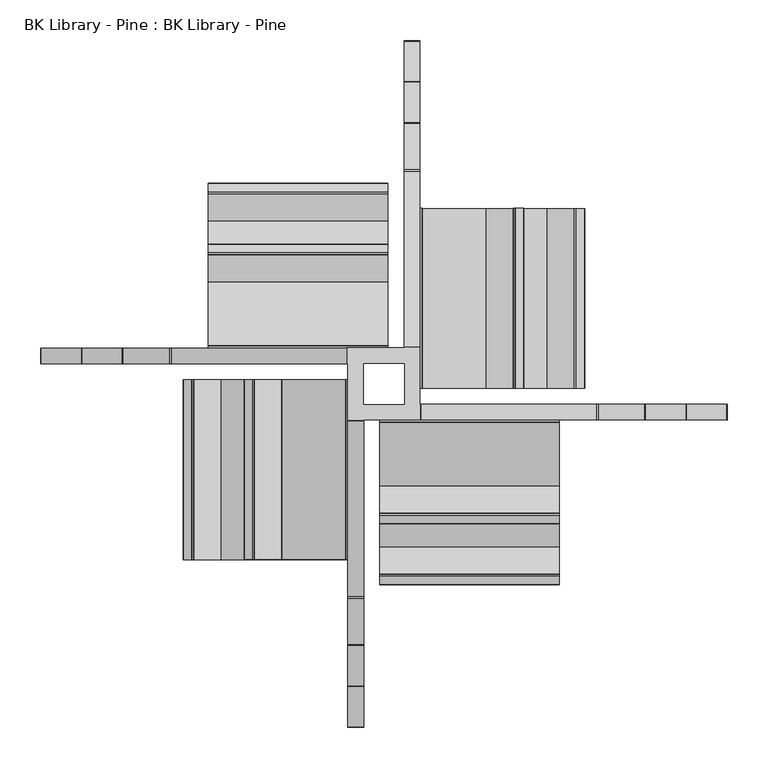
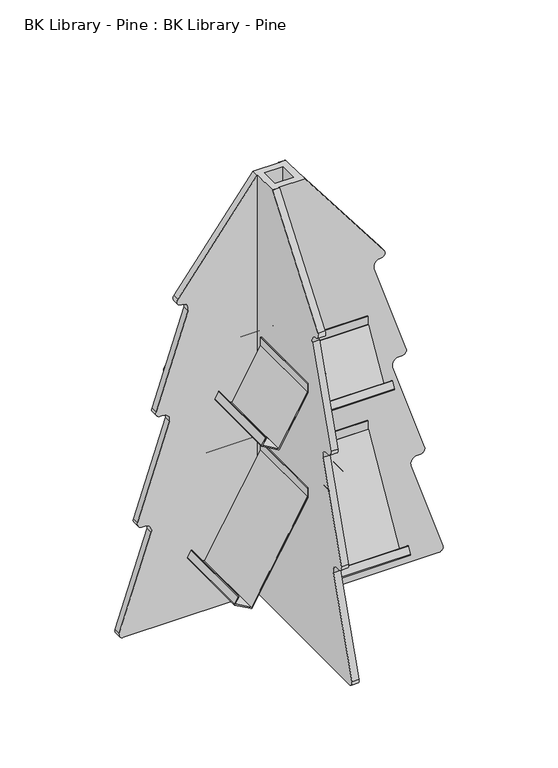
"""IFC4 building model written with IfcOpenShell, lengths in millimetres: furniture geometry, BK Library - Pine : BK Library - Pine."""

from ifc_helpers import new_model, si_unit, point, frame, frame_2d, origin, place, context, project, spatial, polyline, circle_curve, trimmed, segment, composite_curve, outline, extrude, source, transform, mapped, element, save
from ifc_brep_helpers import plane_surface, cylinder_surface, revolved_surface, advanced_brep


def bk_library_pine_bk_library_pine_50db73bd(model_context):
    return source(origin(), model_context, "Body", "SolidModel", [
        advanced_brep(
        [(-25.0, -319.7350889, 666.0154092), (-25.0, -308.3508893, 650.220676), (-25.0, -299.9736659, 650.220676), (-25.0, -282.8973665, 626.5285762), (-25.0, -369.7350889, 366.0154092), (-25.0, -358.3508893, 350.220676), (-25.0, -349.9894957, 350.220676), (-25.0, -332.9166209, 326.518313), (-25.0, -419.7222527, 66.6222513), (-25.0, -408.3403361, 50.820676), (-25.0, 23.0, 50.820676), (-25.0, 25.0, 52.820676), (-25.0, 25.0, 1249.620676), (-25.0, -25.0, 1249.620676), (-25.0, -25.0, 52.820676), (-25.0, -44.0, 52.820676), (-25.0, -44.0, 1249.620676), (-25.0, -44.7683609, 1249.620676), (-25.0, -45.4702203, 1249.2745338), (-25.0, -260.1055371, 969.5253041), (-25.0, -250.3395735, 950.2231852), (-25.0, -232.8952761, 926.5348475), (-44.0, -319.7350889, 666.0154092), (-44.0, -232.8952761, 926.5348475), (-44.0, -250.3395735, 950.2231852), (-44.0, -260.1055371, 969.5253041), (-44.0, -45.4702203, 1249.2745338), (-44.0, -44.7683609, 1249.620676), (-44.0, 25.0, 1249.620676), (-44.0, 25.0, 52.820676), (-44.0, 23.0, 50.820676), (-44.0, -408.3403361, 50.820676), (-44.0, -419.7222527, 66.6222513), (-44.0, -332.9166209, 326.518313), (-44.0, -349.9894957, 350.220676), (-44.0, -358.3508893, 350.220676), (-44.0, -369.7350889, 366.0154092), (-44.0, -282.8973665, 626.5285762), (-44.0, -299.9736659, 650.220676), (-44.0, -308.3508893, 650.220676), (44.7683609, -44.0, 1249.620676), (44.7683609, -25.0, 1249.620676), (44.0, -25.0, 1249.620676), (44.0, 44.7683609, 1249.620676), (25.0, 44.7683609, 1249.620676), (25.0, 44.0, 1249.620676), (-44.7683609, 44.0, 1249.620676), (-44.7683609, 25.0, 1249.620676), (25.0, 25.0, 1249.620676), (25.0, -25.0, 1249.620676), (-319.7350889, 25.0, 666.0154092), (-308.3508893, 25.0, 650.220676), (-299.9736659, 25.0, 650.220676), (-282.8973665, 25.0, 626.5285762), (-369.7350889, 25.0, 366.0154092), (-358.3508893, 25.0, 350.220676), (-349.9894957, 25.0, 350.220676), (-332.9166209, 25.0, 326.518313), (-419.7222527, 25.0, 66.6222513), (-408.3403361, 25.0, 50.820676), (23.0, 25.0, 50.820676), (25.0, 25.0, 52.820676), (-45.4702203, 25.0, 1249.2745338), (-260.1055371, 25.0, 969.5253041), (-250.3395735, 25.0, 950.2231852), (-232.8952761, 25.0, 926.5348475), (-319.7350889, 44.0, 666.0154092), (-232.8952761, 44.0, 926.5348475), (-250.3395735, 44.0, 950.2231852), (-260.1055371, 44.0, 969.5253041), (-45.4702203, 44.0, 1249.2745338), (25.0, 44.0, 52.820676), (23.0, 44.0, 50.820676), (-408.3403361, 44.0, 50.820676), (-419.7222527, 44.0, 66.6222513), (-332.9166209, 44.0, 326.518313), (-349.9894957, 44.0, 350.220676), (-358.3508893, 44.0, 350.220676), (-369.7350889, 44.0, 366.0154092), (-282.8973665, 44.0, 626.5285762), (-299.9736659, 44.0, 650.220676), (-308.3508893, 44.0, 650.220676), (25.0, 319.7350889, 666.0154092), (25.0, 308.3508893, 650.220676), (25.0, 299.9736659, 650.220676), (25.0, 282.8973665, 626.5285762), (25.0, 369.7350889, 366.0154092), (25.0, 358.3508893, 350.220676), (25.0, 349.9894957, 350.220676), (25.0, 332.9166209, 326.518313), (25.0, 419.7222527, 66.6222513), (25.0, 408.3403361, 50.820676), (25.0, -23.0, 50.820676), (25.0, -25.0, 52.820676), (25.0, 45.4702203, 1249.2745338), (25.0, 260.1055371, 969.5253041), (25.0, 250.3395735, 950.2231852), (25.0, 232.8952761, 926.5348475), (44.0, 319.7350889, 666.0154092), (44.0, 232.8952761, 926.5348475), (44.0, 250.3395735, 950.2231852), (44.0, 260.1055371, 969.5253041), (44.0, 45.4702203, 1249.2745338), (44.0, -25.0, 52.820676), (44.0, -23.0, 50.820676), (44.0, 408.3403361, 50.820676), (44.0, 419.7222527, 66.6222513), (44.0, 332.9166209, 326.518313), (44.0, 349.9894957, 350.220676), (44.0, 358.3508893, 350.220676), (44.0, 369.7350889, 366.0154092), (44.0, 282.8973665, 626.5285762), (44.0, 299.9736659, 650.220676), (44.0, 308.3508893, 650.220676), (319.7350889, -25.0, 666.0154092), (308.3508893, -25.0, 650.220676), (299.9736659, -25.0, 650.220676), (282.8973665, -25.0, 626.5285762), (369.7350889, -25.0, 366.0154092), (358.3508893, -25.0, 350.220676), (349.9894957, -25.0, 350.220676), (332.9166209, -25.0, 326.518313), (419.7222527, -25.0, 66.6222513), (408.3403361, -25.0, 50.820676), (-23.0, -25.0, 50.820676), (45.4702203, -25.0, 1249.2745338), (260.1055371, -25.0, 969.5253041), (250.3395735, -25.0, 950.2231852), (232.8952761, -25.0, 926.5348475), (319.7350889, -44.0, 666.0154092), (232.8952761, -44.0, 926.5348475), (250.3395735, -44.0, 950.2231852), (260.1055371, -44.0, 969.5253041), (45.4702203, -44.0, 1249.2745338), (-23.0, -44.0, 50.820676), (408.3403361, -44.0, 50.820676), (419.7222527, -44.0, 66.6222513), (332.9166209, -44.0, 326.518313), (349.9894957, -44.0, 350.220676), (358.3508893, -44.0, 350.220676), (369.7350889, -44.0, 366.0154092), (282.8973665, -44.0, 626.5285762), (299.9736659, -44.0, 650.220676), (308.3508893, -44.0, 650.220676)],
        [
            (0, 1, circle_curve(frame((-25.0, -308.3508893, 662.220676), z_axis=(1.0, 0.0, 0.0), x_axis=(0.0, 1.0, 0.0)), 12.0)),
            (1, 2),
            (2, 3, circle_curve(frame((-25.0, -299.9736659, 632.220676), z_axis=(-1.0, 0.0, 0.0), x_axis=(0.0, 1.0, 0.0)), 18.0)),
            (3, 4),
            (4, 5, circle_curve(frame((-25.0, -358.3508893, 362.220676), z_axis=(1.0, 0.0, 0.0), x_axis=(0.0, 1.0, 0.0)), 12.0)),
            (5, 6),
            (6, 7, circle_curve(frame((-25.0, -349.9894957, 332.220676), z_axis=(-1.0, 0.0, 0.0), x_axis=(0.0, 1.0, 0.0)), 18.0)),
            (7, 8),
            (8, 9, circle_curve(frame((-25.0, -408.3403361, 62.820676), z_axis=(1.0, 0.0, 0.0), x_axis=(0.0, 1.0, 0.0)), 12.0)),
            (9, 10),
            (10, 11, circle_curve(frame((-25.0, 23.0, 52.820676), z_axis=(1.0, 0.0, 0.0), x_axis=(0.0, 1.0, 0.0)), 2.0)),
            (11, 12),
            (12, 13),
            (13, 14),
            (14, 15),
            (15, 16),
            (16, 17),
            (17, 18, circle_curve(frame((-25.0, -44.7683609, 1248.7360379), z_axis=(1.0, 0.0, 0.0), x_axis=(0.0, 1.0, 0.0)), 0.8846381)),
            (18, 19),
            (19, 20, circle_curve(frame((-25.0, -250.5849055, 962.2206771), z_axis=(1.0, 0.0, 0.0), x_axis=(0.0, 1.0, 0.0)), 12.0)),
            (20, 21, circle_curve(frame((-25.0, -249.9715755, 932.2269473), z_axis=(-1.0, 0.0, 0.0), x_axis=(0.0, 1.0, 0.0)), 18.0)),
            (21, 0),
            (22, 23),
            (23, 24, circle_curve(frame((-44.0, -249.9715755, 932.2269473), z_axis=(1.0, 0.0, 0.0), x_axis=(0.0, 1.0, 0.0)), 18.0)),
            (24, 25, circle_curve(frame((-44.0, -250.5849055, 962.2206771), z_axis=(-1.0, 0.0, 0.0), x_axis=(0.0, 1.0, 0.0)), 12.0)),
            (25, 26),
            (26, 27, circle_curve(frame((-44.0, -44.7683609, 1248.7360379), z_axis=(-1.0, 0.0, 0.0), x_axis=(0.0, 1.0, 0.0)), 0.8846381)),
            (27, 28),
            (28, 29),
            (29, 30, circle_curve(frame((-44.0, 23.0, 52.820676), z_axis=(-1.0, 0.0, 0.0), x_axis=(0.0, 1.0, 0.0)), 2.0)),
            (30, 31),
            (31, 32, circle_curve(frame((-44.0, -408.3403361, 62.820676), z_axis=(-1.0, 0.0, 0.0), x_axis=(0.0, 1.0, 0.0)), 12.0)),
            (32, 33),
            (33, 34, circle_curve(frame((-44.0, -349.9894957, 332.220676), z_axis=(1.0, 0.0, 0.0), x_axis=(0.0, 1.0, 0.0)), 18.0)),
            (34, 35),
            (35, 36, circle_curve(frame((-44.0, -358.3508893, 362.220676), z_axis=(-1.0, 0.0, 0.0), x_axis=(0.0, 1.0, 0.0)), 12.0)),
            (36, 37),
            (37, 38, circle_curve(frame((-44.0, -299.9736659, 632.220676), z_axis=(1.0, 0.0, 0.0), x_axis=(0.0, 1.0, 0.0)), 18.0)),
            (38, 39),
            (39, 22, circle_curve(frame((-44.0, -308.3508893, 662.220676), z_axis=(-1.0, 0.0, 0.0), x_axis=(0.0, 1.0, 0.0)), 12.0)),
            (0, 22),
            (39, 1),
            (38, 2),
            (37, 3),
            (36, 4),
            (35, 5),
            (34, 6),
            (33, 7),
            (32, 8),
            (31, 9),
            (30, 10),
            (29, 11),
            (27, 17),
            (16, 40),
            (40, 41),
            (41, 42),
            (42, 43),
            (43, 44),
            (44, 45),
            (45, 46),
            (46, 47),
            (47, 28),
            (48, 49),
            (49, 13),
            (12, 48),
            (18, 26),
            (25, 19),
            (20, 24),
            (23, 21),
            (50, 51, circle_curve(frame((-308.3508893, 25.0, 662.220676), z_axis=(0.0, -1.0, 0.0), x_axis=(1.0, 0.0, 0.0)), 12.0)),
            (51, 52),
            (52, 53, circle_curve(frame((-299.9736659, 25.0, 632.220676), z_axis=(0.0, 1.0, 0.0), x_axis=(1.0, 0.0, 0.0)), 18.0)),
            (53, 54),
            (54, 55, circle_curve(frame((-358.3508893, 25.0, 362.220676), z_axis=(0.0, -1.0, 0.0), x_axis=(1.0, 0.0, 0.0)), 12.0)),
            (55, 56),
            (56, 57, circle_curve(frame((-349.9894957, 25.0, 332.220676), z_axis=(0.0, 1.0, 0.0), x_axis=(1.0, 0.0, 0.0)), 18.0)),
            (57, 58),
            (58, 59, circle_curve(frame((-408.3403361, 25.0, 62.820676), z_axis=(0.0, -1.0, 0.0), x_axis=(1.0, 0.0, 0.0)), 12.0)),
            (59, 60),
            (60, 61, circle_curve(frame((23.0, 25.0, 52.820676), z_axis=(0.0, -1.0, 0.0), x_axis=(1.0, 0.0, 0.0)), 2.0)),
            (61, 48),
            (47, 62, circle_curve(frame((-44.7683609, 25.0, 1248.7360379), z_axis=(0.0, -1.0, 0.0), x_axis=(1.0, 0.0, 0.0)), 0.8846381)),
            (62, 63),
            (63, 64, circle_curve(frame((-250.5849055, 25.0, 962.2206771), z_axis=(0.0, -1.0, 0.0), x_axis=(1.0, 0.0, 0.0)), 12.0)),
            (64, 65, circle_curve(frame((-249.9715755, 25.0, 932.2269473), z_axis=(0.0, 1.0, 0.0), x_axis=(1.0, 0.0, 0.0)), 18.0)),
            (65, 50),
            (66, 67),
            (67, 68, circle_curve(frame((-249.9715755, 44.0, 932.2269473), z_axis=(0.0, -1.0, 0.0), x_axis=(1.0, 0.0, 0.0)), 18.0)),
            (68, 69, circle_curve(frame((-250.5849055, 44.0, 962.2206771), z_axis=(0.0, 1.0, 0.0), x_axis=(1.0, 0.0, 0.0)), 12.0)),
            (69, 70),
            (70, 46, circle_curve(frame((-44.7683609, 44.0, 1248.7360379), z_axis=(0.0, 1.0, 0.0), x_axis=(1.0, 0.0, 0.0)), 0.8846381)),
            (45, 71),
            (71, 72, circle_curve(frame((23.0, 44.0, 52.820676), z_axis=(0.0, 1.0, 0.0), x_axis=(1.0, 0.0, 0.0)), 2.0)),
            (72, 73),
            (73, 74, circle_curve(frame((-408.3403361, 44.0, 62.820676), z_axis=(0.0, 1.0, 0.0), x_axis=(1.0, 0.0, 0.0)), 12.0)),
            (74, 75),
            (75, 76, circle_curve(frame((-349.9894957, 44.0, 332.220676), z_axis=(0.0, -1.0, 0.0), x_axis=(1.0, 0.0, 0.0)), 18.0)),
            (76, 77),
            (77, 78, circle_curve(frame((-358.3508893, 44.0, 362.220676), z_axis=(0.0, 1.0, 0.0), x_axis=(1.0, 0.0, 0.0)), 12.0)),
            (78, 79),
            (79, 80, circle_curve(frame((-299.9736659, 44.0, 632.220676), z_axis=(0.0, -1.0, 0.0), x_axis=(1.0, 0.0, 0.0)), 18.0)),
            (80, 81),
            (81, 66, circle_curve(frame((-308.3508893, 44.0, 662.220676), z_axis=(0.0, 1.0, 0.0), x_axis=(1.0, 0.0, 0.0)), 12.0)),
            (50, 66),
            (81, 51),
            (80, 52),
            (79, 53),
            (78, 54),
            (77, 55),
            (76, 56),
            (75, 57),
            (74, 58),
            (73, 59),
            (72, 60),
            (71, 61),
            (62, 70),
            (69, 63),
            (64, 68),
            (67, 65),
            (82, 83, circle_curve(frame((25.0, 308.3508893, 662.220676), z_axis=(-1.0, 0.0, 0.0), x_axis=(0.0, -1.0, 0.0)), 12.0)),
            (83, 84),
            (84, 85, circle_curve(frame((25.0, 299.9736659, 632.220676), z_axis=(1.0, 0.0, 0.0), x_axis=(0.0, -1.0, 0.0)), 18.0)),
            (85, 86),
            (86, 87, circle_curve(frame((25.0, 358.3508893, 362.220676), z_axis=(-1.0, 0.0, 0.0), x_axis=(0.0, -1.0, 0.0)), 12.0)),
            (87, 88),
            (88, 89, circle_curve(frame((25.0, 349.9894957, 332.220676), z_axis=(1.0, 0.0, 0.0), x_axis=(0.0, -1.0, 0.0)), 18.0)),
            (89, 90),
            (90, 91, circle_curve(frame((25.0, 408.3403361, 62.820676), z_axis=(-1.0, 0.0, 0.0), x_axis=(0.0, -1.0, 0.0)), 12.0)),
            (91, 92),
            (92, 93, circle_curve(frame((25.0, -23.0, 52.820676), z_axis=(-1.0, 0.0, 0.0), x_axis=(0.0, -1.0, 0.0)), 2.0)),
            (93, 49),
            (44, 94, circle_curve(frame((25.0, 44.7683609, 1248.7360379), z_axis=(-1.0, 0.0, 0.0), x_axis=(0.0, -1.0, 0.0)), 0.8846381)),
            (94, 95),
            (95, 96, circle_curve(frame((25.0, 250.5849055, 962.2206771), z_axis=(-1.0, 0.0, 0.0), x_axis=(0.0, -1.0, 0.0)), 12.0)),
            (96, 97, circle_curve(frame((25.0, 249.9715755, 932.2269473), z_axis=(1.0, 0.0, 0.0), x_axis=(0.0, -1.0, 0.0)), 18.0)),
            (97, 82),
            (98, 99),
            (99, 100, circle_curve(frame((44.0, 249.9715755, 932.2269473), z_axis=(-1.0, 0.0, 0.0), x_axis=(0.0, -1.0, 0.0)), 18.0)),
            (100, 101, circle_curve(frame((44.0, 250.5849055, 962.2206771), z_axis=(1.0, 0.0, 0.0), x_axis=(0.0, -1.0, 0.0)), 12.0)),
            (101, 102),
            (102, 43, circle_curve(frame((44.0, 44.7683609, 1248.7360379), z_axis=(1.0, 0.0, 0.0), x_axis=(0.0, -1.0, 0.0)), 0.8846381)),
            (42, 103),
            (103, 104, circle_curve(frame((44.0, -23.0, 52.820676), z_axis=(1.0, 0.0, 0.0), x_axis=(0.0, -1.0, 0.0)), 2.0)),
            (104, 105),
            (105, 106, circle_curve(frame((44.0, 408.3403361, 62.820676), z_axis=(1.0, 0.0, 0.0), x_axis=(0.0, -1.0, 0.0)), 12.0)),
            (106, 107),
            (107, 108, circle_curve(frame((44.0, 349.9894957, 332.220676), z_axis=(-1.0, 0.0, 0.0), x_axis=(0.0, -1.0, 0.0)), 18.0)),
            (108, 109),
            (109, 110, circle_curve(frame((44.0, 358.3508893, 362.220676), z_axis=(1.0, 0.0, 0.0), x_axis=(0.0, -1.0, 0.0)), 12.0)),
            (110, 111),
            (111, 112, circle_curve(frame((44.0, 299.9736659, 632.220676), z_axis=(-1.0, 0.0, 0.0), x_axis=(0.0, -1.0, 0.0)), 18.0)),
            (112, 113),
            (113, 98, circle_curve(frame((44.0, 308.3508893, 662.220676), z_axis=(1.0, 0.0, 0.0), x_axis=(0.0, -1.0, 0.0)), 12.0)),
            (82, 98),
            (113, 83),
            (112, 84),
            (111, 85),
            (110, 86),
            (109, 87),
            (108, 88),
            (107, 89),
            (106, 90),
            (105, 91),
            (104, 92),
            (103, 93),
            (94, 102),
            (101, 95),
            (96, 100),
            (99, 97),
            (114, 115, circle_curve(frame((308.3508893, -25.0, 662.220676), z_axis=(0.0, 1.0, 0.0), x_axis=(-1.0, 0.0, 0.0)), 12.0)),
            (115, 116),
            (116, 117, circle_curve(frame((299.9736659, -25.0, 632.220676), z_axis=(0.0, -1.0, 0.0), x_axis=(-1.0, 0.0, 0.0)), 18.0)),
            (117, 118),
            (118, 119, circle_curve(frame((358.3508893, -25.0, 362.220676), z_axis=(0.0, 1.0, 0.0), x_axis=(-1.0, 0.0, 0.0)), 12.0)),
            (119, 120),
            (120, 121, circle_curve(frame((349.9894957, -25.0, 332.220676), z_axis=(0.0, -1.0, 0.0), x_axis=(-1.0, 0.0, 0.0)), 18.0)),
            (121, 122),
            (122, 123, circle_curve(frame((408.3403361, -25.0, 62.820676), z_axis=(0.0, 1.0, 0.0), x_axis=(-1.0, 0.0, 0.0)), 12.0)),
            (123, 124),
            (124, 14, circle_curve(frame((-23.0, -25.0, 52.820676), z_axis=(0.0, 1.0, 0.0), x_axis=(-1.0, 0.0, 0.0)), 2.0)),
            (41, 125, circle_curve(frame((44.7683609, -25.0, 1248.7360379), z_axis=(0.0, 1.0, 0.0), x_axis=(-1.0, 0.0, 0.0)), 0.8846381)),
            (125, 126),
            (126, 127, circle_curve(frame((250.5849055, -25.0, 962.2206771), z_axis=(0.0, 1.0, 0.0), x_axis=(-1.0, 0.0, 0.0)), 12.0)),
            (127, 128, circle_curve(frame((249.9715755, -25.0, 932.2269473), z_axis=(0.0, -1.0, 0.0), x_axis=(-1.0, 0.0, 0.0)), 18.0)),
            (128, 114),
            (129, 130),
            (130, 131, circle_curve(frame((249.9715755, -44.0, 932.2269473), z_axis=(0.0, 1.0, 0.0), x_axis=(-1.0, 0.0, 0.0)), 18.0)),
            (131, 132, circle_curve(frame((250.5849055, -44.0, 962.2206771), z_axis=(0.0, -1.0, 0.0), x_axis=(-1.0, 0.0, 0.0)), 12.0)),
            (132, 133),
            (133, 40, circle_curve(frame((44.7683609, -44.0, 1248.7360379), z_axis=(0.0, -1.0, 0.0), x_axis=(-1.0, 0.0, 0.0)), 0.8846381)),
            (15, 134, circle_curve(frame((-23.0, -44.0, 52.820676), z_axis=(0.0, -1.0, 0.0), x_axis=(-1.0, 0.0, 0.0)), 2.0)),
            (134, 135),
            (135, 136, circle_curve(frame((408.3403361, -44.0, 62.820676), z_axis=(0.0, -1.0, 0.0), x_axis=(-1.0, 0.0, 0.0)), 12.0)),
            (136, 137),
            (137, 138, circle_curve(frame((349.9894957, -44.0, 332.220676), z_axis=(0.0, 1.0, 0.0), x_axis=(-1.0, 0.0, 0.0)), 18.0)),
            (138, 139),
            (139, 140, circle_curve(frame((358.3508893, -44.0, 362.220676), z_axis=(0.0, -1.0, 0.0), x_axis=(-1.0, 0.0, 0.0)), 12.0)),
            (140, 141),
            (141, 142, circle_curve(frame((299.9736659, -44.0, 632.220676), z_axis=(0.0, 1.0, 0.0), x_axis=(-1.0, 0.0, 0.0)), 18.0)),
            (142, 143),
            (143, 129, circle_curve(frame((308.3508893, -44.0, 662.220676), z_axis=(0.0, -1.0, 0.0), x_axis=(-1.0, 0.0, 0.0)), 12.0)),
            (114, 129),
            (143, 115),
            (142, 116),
            (141, 117),
            (140, 118),
            (139, 119),
            (138, 120),
            (137, 121),
            (136, 122),
            (135, 123),
            (134, 124),
            (125, 133),
            (132, 126),
            (127, 131),
            (130, 128),
        ],
        [
            plane_surface(frame((-25.0, -296.3508893, 662.220676), z_axis=(1.0, 0.0, 0.0), x_axis=(0.0, 0.0, 1.0))),
            plane_surface(frame((-44.0, -296.3508893, 662.220676), z_axis=(-1.0, 0.0, 0.0), x_axis=(0.0, 0.0, -1.0))),
            cylinder_surface(frame((-44.0, -308.3508893, 662.220676), z_axis=(1.0, 0.0, 0.0), x_axis=(0.0, 1.0, 0.0)), 12.0),
            plane_surface(frame((-25.0, -308.3508893, 650.220676), z_axis=(0.0, 0.0, -1.0), x_axis=(-1.0, 0.0, 0.0))),
            revolved_surface(polyline([(-44.0, -281.9736659, 632.220676), (-25.0, -281.9736659, 632.220676)]), (-44.0, -299.9736659, 632.220676), (-1.0, 0.0, 0.0)),
            plane_surface(frame((-25.0, -282.8973665, 626.5285762), z_axis=(0.0, -0.9486832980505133, 0.3162277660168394), x_axis=(-1.0, 0.0, 0.0))),
            cylinder_surface(frame((-44.0, -358.3508893, 362.220676), z_axis=(1.0, 0.0, 0.0), x_axis=(0.0, 1.0, 0.0)), 12.0),
            plane_surface(frame((-25.0, -358.3508893, 350.220676), z_axis=(0.0, 0.0, -1.0), x_axis=(-1.0, 0.0, 0.0))),
            revolved_surface(polyline([(-44.0, -331.9894957, 332.220676), (-25.0, -331.9894957, 332.220676)]), (-44.0, -349.9894957, 332.220676), (-1.0, 0.0, 0.0)),
            plane_surface(frame((-25.0, -332.9166209, 326.518313), z_axis=(0.0, -0.9484930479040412, 0.31679794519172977), x_axis=(-1.0, 0.0, 0.0))),
            cylinder_surface(frame((-44.0, -408.3403361, 62.820676), z_axis=(1.0, 0.0, 0.0), x_axis=(0.0, 1.0, 0.0)), 12.0),
            plane_surface(frame((-25.0, -408.3403361, 50.820676), z_axis=(0.0, 0.0, -1.0), x_axis=(-1.0, 0.0, 0.0))),
            cylinder_surface(frame((-44.0, 23.0, 52.820676), z_axis=(1.0, 0.0, 0.0), x_axis=(0.0, 1.0, 0.0)), 2.0),
            plane_surface(frame((-25.0, 25.0, 1249.620676), z_axis=(0.0, 0.0, 1.0), x_axis=(-1.0, 0.0, 0.0))),
            plane_surface(frame((-25.0, -45.4702203, 1249.2745338), z_axis=(0.0, -0.7933859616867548, 0.6087189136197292), x_axis=(-1.0, 0.0, 0.0))),
            revolved_surface(polyline([(-44.0, -231.9715755, 932.2269473), (-25.0, -231.9715755, 932.2269473)]), (-44.0, -249.9715755, 932.2269473), (-1.0, 0.0, 0.0)),
            plane_surface(frame((-25.0, -232.8952761, 926.5348475), z_axis=(0.0, -0.9486832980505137, 0.3162277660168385), x_axis=(-1.0, 0.0, 0.0))),
            cylinder_surface(frame((-44.0, -44.7683609, 1248.7360379), z_axis=(1.0, 0.0, 0.0), x_axis=(0.0, 1.0, 0.0)), 0.8846381),
            cylinder_surface(frame((-44.0, -250.5849055, 962.2206771), z_axis=(1.0, 0.0, 0.0), x_axis=(0.0, 1.0, 0.0)), 12.0),
            plane_surface(frame((-296.3508893, 25.0, 662.220676), z_axis=(0.0, -1.0, 0.0), x_axis=(0.0, 0.0, 1.0))),
            plane_surface(frame((-296.3508893, 44.0, 662.220676), z_axis=(0.0, 1.0, 0.0), x_axis=(0.0, 0.0, -1.0))),
            cylinder_surface(frame((-308.3508893, 44.0, 662.220676), z_axis=(0.0, -1.0, 0.0), x_axis=(1.0, 0.0, 0.0)), 12.0),
            plane_surface(frame((-308.3508893, 25.0, 650.220676), z_axis=(0.0, 0.0, -1.0), x_axis=(0.0, 1.0, 0.0))),
            revolved_surface(polyline([(-281.9736659, 44.0, 632.220676), (-281.9736659, 25.0, 632.220676)]), (-299.9736659, 44.0, 632.220676), (0.0, 1.0, 0.0)),
            plane_surface(frame((-282.8973665, 25.0, 626.5285762), z_axis=(-0.9486832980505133, 0.0, 0.3162277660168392), x_axis=(0.0, 1.0, 0.0))),
            cylinder_surface(frame((-358.3508893, 44.0, 362.220676), z_axis=(0.0, -1.0, 0.0), x_axis=(1.0, 0.0, 0.0)), 12.0),
            plane_surface(frame((-358.3508893, 25.0, 350.220676), z_axis=(0.0, 0.0, -1.0), x_axis=(0.0, 1.0, 0.0))),
            revolved_surface(polyline([(-331.9894957, 44.0, 332.220676), (-331.9894957, 25.0, 332.220676)]), (-349.9894957, 44.0, 332.220676), (0.0, 1.0, 0.0)),
            plane_surface(frame((-332.9166209, 25.0, 326.518313), z_axis=(-0.9484930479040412, 0.0, 0.3167979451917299), x_axis=(0.0, 1.0, 0.0))),
            cylinder_surface(frame((-408.3403361, 44.0, 62.820676), z_axis=(0.0, -1.0, 0.0), x_axis=(1.0, 0.0, 0.0)), 12.0),
            plane_surface(frame((-408.3403361, 25.0, 50.820676), z_axis=(0.0, 0.0, -1.0), x_axis=(0.0, 1.0, 0.0))),
            cylinder_surface(frame((23.0, 44.0, 52.820676), z_axis=(0.0, -1.0, 0.0), x_axis=(1.0, 0.0, 0.0)), 2.0),
            plane_surface(frame((-45.4702203, 25.0, 1249.2745338), z_axis=(-0.7933859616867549, 0.0, 0.6087189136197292), x_axis=(0.0, 1.0, 0.0))),
            revolved_surface(polyline([(-231.9715755, 44.0, 932.2269473), (-231.9715755, 25.0, 932.2269473)]), (-249.9715755, 44.0, 932.2269473), (0.0, 1.0, 0.0)),
            plane_surface(frame((-232.8952761, 25.0, 926.5348475), z_axis=(-0.9486832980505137, 0.0, 0.3162277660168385), x_axis=(0.0, 1.0, 0.0))),
            cylinder_surface(frame((-44.7683609, 44.0, 1248.7360379), z_axis=(0.0, -1.0, 0.0), x_axis=(1.0, 0.0, 0.0)), 0.8846381),
            cylinder_surface(frame((-250.5849055, 44.0, 962.2206771), z_axis=(0.0, -1.0, 0.0), x_axis=(1.0, 0.0, 0.0)), 12.0),
            plane_surface(frame((25.0, 296.3508893, 662.220676), z_axis=(-1.0, 0.0, 0.0), x_axis=(0.0, 0.0, 1.0))),
            plane_surface(frame((44.0, 296.3508893, 662.220676), z_axis=(1.0, 0.0, 0.0), x_axis=(0.0, 0.0, -1.0))),
            cylinder_surface(frame((44.0, 308.3508893, 662.220676), z_axis=(-1.0, 0.0, 0.0), x_axis=(0.0, -1.0, 0.0)), 12.0),
            plane_surface(frame((25.0, 308.3508893, 650.220676), z_axis=(0.0, 0.0, -1.0), x_axis=(1.0, 0.0, 0.0))),
            revolved_surface(polyline([(44.0, 281.9736659, 632.220676), (25.0, 281.9736659, 632.220676)]), (44.0, 299.9736659, 632.220676), (1.0, 0.0, 0.0)),
            plane_surface(frame((25.0, 282.8973665, 626.5285762), z_axis=(0.0, 0.9486832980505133, 0.3162277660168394), x_axis=(1.0, 0.0, 0.0))),
            cylinder_surface(frame((44.0, 358.3508893, 362.220676), z_axis=(-1.0, 0.0, 0.0), x_axis=(0.0, -1.0, 0.0)), 12.0),
            plane_surface(frame((25.0, 358.3508893, 350.220676), z_axis=(0.0, 0.0, -1.0), x_axis=(1.0, 0.0, 0.0))),
            revolved_surface(polyline([(44.0, 331.9894957, 332.220676), (25.0, 331.9894957, 332.220676)]), (44.0, 349.9894957, 332.220676), (1.0, 0.0, 0.0)),
            plane_surface(frame((25.0, 332.9166209, 326.518313), z_axis=(0.0, 0.9484930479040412, 0.31679794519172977), x_axis=(1.0, 0.0, 0.0))),
            cylinder_surface(frame((44.0, 408.3403361, 62.820676), z_axis=(-1.0, 0.0, 0.0), x_axis=(0.0, -1.0, 0.0)), 12.0),
            plane_surface(frame((25.0, 408.3403361, 50.820676), z_axis=(0.0, 0.0, -1.0), x_axis=(1.0, 0.0, 0.0))),
            cylinder_surface(frame((44.0, -23.0, 52.820676), z_axis=(-1.0, 0.0, 0.0), x_axis=(0.0, -1.0, 0.0)), 2.0),
            plane_surface(frame((25.0, 45.4702203, 1249.2745338), z_axis=(0.0, 0.7933859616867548, 0.6087189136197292), x_axis=(1.0, 0.0, 0.0))),
            revolved_surface(polyline([(44.0, 231.9715755, 932.2269473), (25.0, 231.9715755, 932.2269473)]), (44.0, 249.9715755, 932.2269473), (1.0, 0.0, 0.0)),
            plane_surface(frame((25.0, 232.8952761, 926.5348475), z_axis=(0.0, 0.9486832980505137, 0.3162277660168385), x_axis=(1.0, 0.0, 0.0))),
            cylinder_surface(frame((44.0, 44.7683609, 1248.7360379), z_axis=(-1.0, 0.0, 0.0), x_axis=(0.0, -1.0, 0.0)), 0.8846381),
            cylinder_surface(frame((44.0, 250.5849055, 962.2206771), z_axis=(-1.0, 0.0, 0.0), x_axis=(0.0, -1.0, 0.0)), 12.0),
            plane_surface(frame((296.3508893, -25.0, 662.220676), z_axis=(0.0, 1.0, 0.0), x_axis=(0.0, 0.0, 1.0))),
            plane_surface(frame((296.3508893, -44.0, 662.220676), z_axis=(0.0, -1.0, 0.0), x_axis=(0.0, 0.0, -1.0))),
            cylinder_surface(frame((308.3508893, -44.0, 662.220676), z_axis=(0.0, 1.0, 0.0), x_axis=(-1.0, 0.0, 0.0)), 12.0),
            plane_surface(frame((308.3508893, -25.0, 650.220676), z_axis=(0.0, 0.0, -1.0), x_axis=(0.0, -1.0, 0.0))),
            revolved_surface(polyline([(281.9736659, -44.0, 632.220676), (281.9736659, -25.0, 632.220676)]), (299.9736659, -44.0, 632.220676), (0.0, -1.0, 0.0)),
            plane_surface(frame((282.8973665, -25.0, 626.5285762), z_axis=(0.9486832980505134, 0.0, 0.3162277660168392), x_axis=(0.0, -1.0, 0.0))),
            cylinder_surface(frame((358.3508893, -44.0, 362.220676), z_axis=(0.0, 1.0, 0.0), x_axis=(-1.0, 0.0, 0.0)), 12.0),
            plane_surface(frame((358.3508893, -25.0, 350.220676), z_axis=(0.0, 0.0, -1.0), x_axis=(0.0, -1.0, 0.0))),
            revolved_surface(polyline([(331.9894957, -44.0, 332.220676), (331.9894957, -25.0, 332.220676)]), (349.9894957, -44.0, 332.220676), (0.0, -1.0, 0.0)),
            plane_surface(frame((332.9166209, -25.0, 326.518313), z_axis=(0.9484930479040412, 0.0, 0.31679794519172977), x_axis=(0.0, -1.0, 0.0))),
            cylinder_surface(frame((408.3403361, -44.0, 62.820676), z_axis=(0.0, 1.0, 0.0), x_axis=(-1.0, 0.0, 0.0)), 12.0),
            plane_surface(frame((408.3403361, -25.0, 50.820676), z_axis=(0.0, 0.0, -1.0), x_axis=(0.0, -1.0, 0.0))),
            cylinder_surface(frame((-23.0, -44.0, 52.820676), z_axis=(0.0, 1.0, 0.0), x_axis=(-1.0, 0.0, 0.0)), 2.0),
            plane_surface(frame((45.4702203, -25.0, 1249.2745338), z_axis=(0.7933859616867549, 0.0, 0.6087189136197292), x_axis=(0.0, -1.0, 0.0))),
            revolved_surface(polyline([(231.9715755, -44.0, 932.2269473), (231.9715755, -25.0, 932.2269473)]), (249.9715755, -44.0, 932.2269473), (0.0, -1.0, 0.0)),
            plane_surface(frame((232.8952761, -25.0, 926.5348475), z_axis=(0.9486832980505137, 0.0, 0.3162277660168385), x_axis=(0.0, -1.0, 0.0))),
            cylinder_surface(frame((44.7683609, -44.0, 1248.7360379), z_axis=(0.0, 1.0, 0.0), x_axis=(-1.0, 0.0, 0.0)), 0.8846381),
            cylinder_surface(frame((250.5849055, -44.0, 962.2206771), z_axis=(0.0, 1.0, 0.0), x_axis=(-1.0, 0.0, 0.0)), 12.0),
        ],
        [
            (0, [[1, 2, 3, 4, 5, 6, 7, 8, 9, 10, 11, 12, 13, 14, 15, 16, 17, 18, 19, 20, 21, 22]]),
            (1, [[23, 24, 25, 26, 27, 28, 29, 30, 31, 32, 33, 34, 35, 36, 37, 38, 39, 40]]),
            (2, [[-1, 41, -40, 42]]),
            (3, [[-2, -42, -39, 43]]),
            (4, [[-3, -43, -38, 44]]),
            (5, [[-4, -44, -37, 45]]),
            (6, [[-5, -45, -36, 46]]),
            (7, [[-6, -46, -35, 47]]),
            (8, [[-7, -47, -34, 48]]),
            (9, [[-8, -48, -33, 49]]),
            (10, [[-9, -49, -32, 50]]),
            (11, [[-10, -50, -31, 51]]),
            (12, [[-11, -51, -30, 52]]),
            (13, [[-28, 53, -17, 54, 55, 56, 57, 58, 59, 60, 61, 62], [63, 64, -13, 65]]),
            (14, [[-19, 66, -26, 67]]),
            (15, [[-21, 68, -24, 69]]),
            (16, [[-22, -69, -23, -41]]),
            (17, [[-18, -53, -27, -66]]),
            (18, [[-20, -67, -25, -68]]),
            (19, [[70, 71, 72, 73, 74, 75, 76, 77, 78, 79, 80, 81, -65, -12, -52, -29, -62, 82, 83, 84, 85, 86]]),
            (20, [[87, 88, 89, 90, 91, -60, 92, 93, 94, 95, 96, 97, 98, 99, 100, 101, 102, 103]]),
            (21, [[-70, 104, -103, 105]]),
            (22, [[-71, -105, -102, 106]]),
            (23, [[-72, -106, -101, 107]]),
            (24, [[-73, -107, -100, 108]]),
            (25, [[-74, -108, -99, 109]]),
            (26, [[-75, -109, -98, 110]]),
            (27, [[-76, -110, -97, 111]]),
            (28, [[-77, -111, -96, 112]]),
            (29, [[-78, -112, -95, 113]]),
            (30, [[-79, -113, -94, 114]]),
            (31, [[-80, -114, -93, 115]]),
            (32, [[-83, 116, -90, 117]]),
            (33, [[-85, 118, -88, 119]]),
            (34, [[-86, -119, -87, -104]]),
            (35, [[-82, -61, -91, -116]]),
            (36, [[-84, -117, -89, -118]]),
            (37, [[120, 121, 122, 123, 124, 125, 126, 127, 128, 129, 130, 131, -63, -81, -115, -92, -59, 132, 133, 134, 135, 136]]),
            (38, [[137, 138, 139, 140, 141, -57, 142, 143, 144, 145, 146, 147, 148, 149, 150, 151, 152, 153]]),
            (39, [[-120, 154, -153, 155]]),
            (40, [[-121, -155, -152, 156]]),
            (41, [[-122, -156, -151, 157]]),
            (42, [[-123, -157, -150, 158]]),
            (43, [[-124, -158, -149, 159]]),
            (44, [[-125, -159, -148, 160]]),
            (45, [[-126, -160, -147, 161]]),
            (46, [[-127, -161, -146, 162]]),
            (47, [[-128, -162, -145, 163]]),
            (48, [[-129, -163, -144, 164]]),
            (49, [[-130, -164, -143, 165]]),
            (50, [[-133, 166, -140, 167]]),
            (51, [[-135, 168, -138, 169]]),
            (52, [[-136, -169, -137, -154]]),
            (53, [[-132, -58, -141, -166]]),
            (54, [[-134, -167, -139, -168]]),
            (55, [[170, 171, 172, 173, 174, 175, 176, 177, 178, 179, 180, -14, -64, -131, -165, -142, -56, 181, 182, 183, 184, 185]]),
            (56, [[186, 187, 188, 189, 190, -54, -16, 191, 192, 193, 194, 195, 196, 197, 198, 199, 200, 201]]),
            (57, [[-170, 202, -201, 203]]),
            (58, [[-171, -203, -200, 204]]),
            (59, [[-172, -204, -199, 205]]),
            (60, [[-173, -205, -198, 206]]),
            (61, [[-174, -206, -197, 207]]),
            (62, [[-175, -207, -196, 208]]),
            (63, [[-176, -208, -195, 209]]),
            (64, [[-177, -209, -194, 210]]),
            (65, [[-178, -210, -193, 211]]),
            (66, [[-179, -211, -192, 212]]),
            (67, [[-180, -212, -191, -15]]),
            (68, [[-182, 213, -189, 214]]),
            (69, [[-184, 215, -187, 216]]),
            (70, [[-185, -216, -186, -202]]),
            (71, [[-181, -55, -190, -213]]),
            (72, [[-183, -214, -188, -215]]),
        ],
    ),
        extrude(outline(composite_curve([segment(polyline([(-201.0980762, 207.0188262), (-244.3993464, 232.0188262)]), True, "CONTINUOUS"), segment(trimmed(circle_curve(frame_2d((-242.8993464, 234.6169024)), 3.0), [point((-244.3993464, 232.0188262))], [point((-245.4974226, 236.1169024))], False, "CARTESIAN"), True, "CONTINUOUS"), segment(polyline([(-245.4974226, 236.1169024), (-235.7474226, 253.0043978)]), True, "CONTINUOUS"), segment(trimmed(circle_curve(frame_2d((-235.3144099, 252.7543978)), 0.5), [point((-235.7474226, 253.0043978))], [point((-235.0644099, 253.1874105))], False, "CARTESIAN"), True, "CONTINUOUS"), segment(polyline([(-235.0644099, 253.1874105), (-233.3323591, 252.1874105)]), True, "CONTINUOUS"), segment(trimmed(circle_curve(frame_2d((-233.5823591, 251.7543978)), 0.5), [point((-233.3323591, 252.1874105))], [point((-233.1493464, 251.5043978))], False, "CARTESIAN"), True, "CONTINUOUS"), segment(polyline([(-233.1493464, 251.5043978), (-242.8993464, 234.6169024), (-200.0310889, 209.8669024)]), True, "CONTINUOUS"), segment(trimmed(circle_curve(frame_2d((-199.7810889, 210.2999151)), 0.5), [point((-200.0310889, 209.8669024))], [point((-199.3480762, 210.0499151))], True, "CARTESIAN"), True, "CONTINUOUS"), segment(polyline([(-199.3480762, 210.0499151), (-47.2009658, 473.5764405)]), True, "CONTINUOUS"), segment(trimmed(circle_curve(frame_2d((-48.5000294, 474.3264552)), 1.5000295), [point((-47.2009658, 473.5764405))], [point((-47.0, 474.3264552))], True, "CARTESIAN"), True, "CONTINUOUS"), segment(polyline([(-47.0, 474.3264552), (-47.0, 497.620676)]), True, "CONTINUOUS"), segment(trimmed(circle_curve(frame_2d((-46.5, 497.620676)), 0.5), [point((-47.0, 497.620676))], [point((-46.5, 498.120676))], False, "CARTESIAN"), True, "CONTINUOUS"), segment(polyline([(-46.5, 498.120676), (-34.0, 498.120676), (-34.0, 511.120676), (-31.0, 511.120676), (-31.0, 498.120676)]), True, "CONTINUOUS"), segment(trimmed(circle_curve(frame_2d((-34.0, 498.120676)), 3.0), [point((-31.0, 498.120676))], [point((-34.0, 495.120676))], False, "CARTESIAN"), True, "CONTINUOUS"), segment(polyline([(-34.0, 495.120676), (-44.0, 495.120676), (-44.0, 473.120676), (-197.0, 208.1169024)]), True, "CONTINUOUS"), segment(trimmed(circle_curve(frame_2d((-199.5980762, 209.6169024)), 3.0), [point((-197.0, 208.1169024))], [point((-201.0980762, 207.0188262))], False, "CARTESIAN"), True, "CONTINUOUS")], self_intersect=False)), frame((-5.0, 0.0, 0.0), z_axis=(1.0, 0.0, 0.0), x_axis=(0.0, 1.0, 0.0)), (0.0, 0.0, 1.0), 220.0),
        extrude(outline(composite_curve([segment(polyline([(-126.5980762, 636.0566114), (-169.8993464, 661.0566114)]), True, "CONTINUOUS"), segment(trimmed(circle_curve(frame_2d((-168.3993464, 663.6546876)), 3.0), [point((-169.8993464, 661.0566114))], [point((-170.9974226, 665.1546876))], False, "CARTESIAN"), True, "CONTINUOUS"), segment(polyline([(-170.9974226, 665.1546876), (-161.2474226, 682.042183)]), True, "CONTINUOUS"), segment(trimmed(circle_curve(frame_2d((-160.8144099, 681.792183)), 0.5), [point((-161.2474226, 682.042183))], [point((-160.5644099, 682.2251957))], False, "CARTESIAN"), True, "CONTINUOUS"), segment(polyline([(-160.5644099, 682.2251957), (-158.8323591, 681.2251957)]), True, "CONTINUOUS"), segment(trimmed(circle_curve(frame_2d((-159.0823591, 680.792183)), 0.5), [point((-158.8323591, 681.2251957))], [point((-158.6493464, 680.542183))], False, "CARTESIAN"), True, "CONTINUOUS"), segment(polyline([(-158.6493464, 680.542183), (-168.3993464, 663.6546876), (-125.5310889, 638.9046876)]), True, "CONTINUOUS"), segment(trimmed(circle_curve(frame_2d((-125.2810889, 639.3377003)), 0.5), [point((-125.5310889, 638.9046876))], [point((-124.8480762, 639.0877003))], True, "CARTESIAN"), True, "CONTINUOUS"), segment(polyline([(-124.8480762, 639.0877003), (-47.2009619, 773.5764473)]), True, "CONTINUOUS"), segment(trimmed(circle_curve(frame_2d((-48.5, 774.3264473)), 1.5), [point((-47.2009619, 773.5764473))], [point((-47.0, 774.3264473))], True, "CARTESIAN"), True, "CONTINUOUS"), segment(polyline([(-47.0, 774.3264473), (-47.0, 797.620676)]), True, "CONTINUOUS"), segment(trimmed(circle_curve(frame_2d((-46.5, 797.620676)), 0.5), [point((-47.0, 797.620676))], [point((-46.5, 798.120676))], False, "CARTESIAN"), True, "CONTINUOUS"), segment(polyline([(-46.5, 798.120676), (-34.0, 798.120676), (-34.0, 811.120676), (-31.0, 811.120676), (-31.0, 798.120676)]), True, "CONTINUOUS"), segment(trimmed(circle_curve(frame_2d((-34.0, 798.120676)), 3.0), [point((-31.0, 798.120676))], [point((-34.0, 795.120676))], False, "CARTESIAN"), True, "CONTINUOUS"), segment(polyline([(-34.0, 795.120676), (-44.0, 795.120676), (-44.0, 773.120676), (-122.5, 637.1546876)]), True, "CONTINUOUS"), segment(trimmed(circle_curve(frame_2d((-125.0980762, 638.6546876)), 3.0), [point((-122.5, 637.1546876))], [point((-126.5980762, 636.0566114))], False, "CARTESIAN"), True, "CONTINUOUS")], self_intersect=False)), frame((-5.0, 0.0, 0.0), z_axis=(1.0, 0.0, 0.0), x_axis=(0.0, 1.0, 0.0)), (0.0, 0.0, 1.0), 220.0),
        extrude(outline(composite_curve([segment(polyline([(207.0188262, 201.0980762), (232.0188262, 244.3993464)]), True, "CONTINUOUS"), segment(trimmed(circle_curve(frame_2d((234.6169024, 242.8993464)), 3.0), [point((232.0188262, 244.3993464))], [point((236.1169024, 245.4974226))], False, "CARTESIAN"), True, "CONTINUOUS"), segment(polyline([(236.1169024, 245.4974226), (253.0043978, 235.7474226)]), True, "CONTINUOUS"), segment(trimmed(circle_curve(frame_2d((252.7543978, 235.3144099)), 0.5), [point((253.0043978, 235.7474226))], [point((253.1874105, 235.0644099))], False, "CARTESIAN"), True, "CONTINUOUS"), segment(polyline([(253.1874105, 235.0644099), (252.1874105, 233.3323591)]), True, "CONTINUOUS"), segment(trimmed(circle_curve(frame_2d((251.7543978, 233.5823591)), 0.5), [point((252.1874105, 233.3323591))], [point((251.5043978, 233.1493464))], False, "CARTESIAN"), True, "CONTINUOUS"), segment(polyline([(251.5043978, 233.1493464), (234.6169024, 242.8993464), (209.8669024, 200.0310889)]), True, "CONTINUOUS"), segment(trimmed(circle_curve(frame_2d((210.2999151, 199.7810889)), 0.5), [point((209.8669024, 200.0310889))], [point((210.0499151, 199.3480762))], True, "CARTESIAN"), True, "CONTINUOUS"), segment(polyline([(210.0499151, 199.3480762), (473.5764405, 47.2009658)]), True, "CONTINUOUS"), segment(trimmed(circle_curve(frame_2d((474.3264552, 48.5000294)), 1.5000295), [point((473.5764405, 47.2009658))], [point((474.3264552, 47.0))], True, "CARTESIAN"), True, "CONTINUOUS"), segment(polyline([(474.3264552, 47.0), (497.620676, 47.0)]), True, "CONTINUOUS"), segment(trimmed(circle_curve(frame_2d((497.620676, 46.5)), 0.5), [point((497.620676, 47.0))], [point((498.120676, 46.5))], False, "CARTESIAN"), True, "CONTINUOUS"), segment(polyline([(498.120676, 46.5), (498.120676, 34.0), (511.120676, 34.0), (511.120676, 31.0), (498.120676, 31.0)]), True, "CONTINUOUS"), segment(trimmed(circle_curve(frame_2d((498.120676, 34.0)), 3.0), [point((498.120676, 31.0))], [point((495.120676, 34.0))], False, "CARTESIAN"), True, "CONTINUOUS"), segment(polyline([(495.120676, 34.0), (495.120676, 44.0), (473.120676, 44.0), (208.1169024, 197.0)]), True, "CONTINUOUS"), segment(trimmed(circle_curve(frame_2d((209.6169024, 199.5980762)), 3.0), [point((208.1169024, 197.0))], [point((207.0188262, 201.0980762))], False, "CARTESIAN"), True, "CONTINUOUS")], self_intersect=False)), frame((0.0, -5.0, 0.0), z_axis=(0.0, 1.0, 0.0), x_axis=(0.0, 0.0, 1.0)), (0.0, 0.0, 1.0), 220.0),
        extrude(outline(composite_curve([segment(polyline([(636.0566114, 126.5980762), (661.0566114, 169.8993464)]), True, "CONTINUOUS"), segment(trimmed(circle_curve(frame_2d((663.6546876, 168.3993464)), 3.0), [point((661.0566114, 169.8993464))], [point((665.1546876, 170.9974226))], False, "CARTESIAN"), True, "CONTINUOUS"), segment(polyline([(665.1546876, 170.9974226), (682.042183, 161.2474226)]), True, "CONTINUOUS"), segment(trimmed(circle_curve(frame_2d((681.792183, 160.8144099)), 0.5), [point((682.042183, 161.2474226))], [point((682.2251957, 160.5644099))], False, "CARTESIAN"), True, "CONTINUOUS"), segment(polyline([(682.2251957, 160.5644099), (681.2251957, 158.8323591)]), True, "CONTINUOUS"), segment(trimmed(circle_curve(frame_2d((680.792183, 159.0823591)), 0.5), [point((681.2251957, 158.8323591))], [point((680.542183, 158.6493464))], False, "CARTESIAN"), True, "CONTINUOUS"), segment(polyline([(680.542183, 158.6493464), (663.6546876, 168.3993464), (638.9046876, 125.5310889)]), True, "CONTINUOUS"), segment(trimmed(circle_curve(frame_2d((639.3377003, 125.2810889)), 0.5), [point((638.9046876, 125.5310889))], [point((639.0877003, 124.8480762))], True, "CARTESIAN"), True, "CONTINUOUS"), segment(polyline([(639.0877003, 124.8480762), (773.5764473, 47.2009619)]), True, "CONTINUOUS"), segment(trimmed(circle_curve(frame_2d((774.3264473, 48.5)), 1.5), [point((773.5764473, 47.2009619))], [point((774.3264473, 47.0))], True, "CARTESIAN"), True, "CONTINUOUS"), segment(polyline([(774.3264473, 47.0), (797.620676, 47.0)]), True, "CONTINUOUS"), segment(trimmed(circle_curve(frame_2d((797.620676, 46.5)), 0.5), [point((797.620676, 47.0))], [point((798.120676, 46.5))], False, "CARTESIAN"), True, "CONTINUOUS"), segment(polyline([(798.120676, 46.5), (798.120676, 34.0), (811.120676, 34.0), (811.120676, 31.0), (798.120676, 31.0)]), True, "CONTINUOUS"), segment(trimmed(circle_curve(frame_2d((798.120676, 34.0)), 3.0), [point((798.120676, 31.0))], [point((795.120676, 34.0))], False, "CARTESIAN"), True, "CONTINUOUS"), segment(polyline([(795.120676, 34.0), (795.120676, 44.0), (773.120676, 44.0), (637.1546876, 122.5)]), True, "CONTINUOUS"), segment(trimmed(circle_curve(frame_2d((638.6546876, 125.0980762)), 3.0), [point((637.1546876, 122.5))], [point((636.0566114, 126.5980762))], False, "CARTESIAN"), True, "CONTINUOUS")], self_intersect=False)), frame((0.0, -5.0, 0.0), z_axis=(0.0, 1.0, 0.0), x_axis=(0.0, 0.0, 1.0)), (0.0, 0.0, 1.0), 220.0),
        extrude(outline(composite_curve([segment(trimmed(circle_curve(frame_2d((199.5980762, 209.6169024)), 3.0), [point((201.0980762, 207.0188262))], [point((197.0, 208.1169024))], False, "CARTESIAN"), True, "CONTINUOUS"), segment(polyline([(197.0, 208.1169024), (44.0, 473.120676), (44.0, 495.120676), (34.0, 495.120676)]), True, "CONTINUOUS"), segment(trimmed(circle_curve(frame_2d((34.0, 498.120676)), 3.0), [point((34.0, 495.120676))], [point((31.0, 498.120676))], False, "CARTESIAN"), True, "CONTINUOUS"), segment(polyline([(31.0, 498.120676), (31.0, 511.120676), (34.0, 511.120676), (34.0, 498.120676), (46.5, 498.120676)]), True, "CONTINUOUS"), segment(trimmed(circle_curve(frame_2d((46.5, 497.620676)), 0.5), [point((46.5, 498.120676))], [point((47.0, 497.620676))], False, "CARTESIAN"), True, "CONTINUOUS"), segment(polyline([(47.0, 497.620676), (47.0, 474.3264552)]), True, "CONTINUOUS"), segment(trimmed(circle_curve(frame_2d((48.5000294, 474.3264552)), 1.5000295), [point((47.0, 474.3264552))], [point((47.2009658, 473.5764405))], True, "CARTESIAN"), True, "CONTINUOUS"), segment(polyline([(47.2009658, 473.5764405), (199.3480762, 210.0499151)]), True, "CONTINUOUS"), segment(trimmed(circle_curve(frame_2d((199.7810889, 210.2999151)), 0.5), [point((199.3480762, 210.0499151))], [point((200.0310889, 209.8669024))], True, "CARTESIAN"), True, "CONTINUOUS"), segment(polyline([(200.0310889, 209.8669024), (242.8993464, 234.6169024), (233.1493464, 251.5043978)]), True, "CONTINUOUS"), segment(trimmed(circle_curve(frame_2d((233.5823591, 251.7543978)), 0.5), [point((233.1493464, 251.5043978))], [point((233.3323591, 252.1874105))], False, "CARTESIAN"), True, "CONTINUOUS"), segment(polyline([(233.3323591, 252.1874105), (235.0644099, 253.1874105)]), True, "CONTINUOUS"), segment(trimmed(circle_curve(frame_2d((235.3144099, 252.7543978)), 0.5), [point((235.0644099, 253.1874105))], [point((235.7474226, 253.0043978))], False, "CARTESIAN"), True, "CONTINUOUS"), segment(polyline([(235.7474226, 253.0043978), (245.4974226, 236.1169024)]), True, "CONTINUOUS"), segment(trimmed(circle_curve(frame_2d((242.8993464, 234.6169024)), 3.0), [point((245.4974226, 236.1169024))], [point((244.3993464, 232.0188262))], False, "CARTESIAN"), True, "CONTINUOUS"), segment(polyline([(244.3993464, 232.0188262), (201.0980762, 207.0188262)]), True, "CONTINUOUS")], self_intersect=False)), frame((-215.0, 0.0, 0.0), z_axis=(1.0, 0.0, 0.0), x_axis=(0.0, 1.0, 0.0)), (0.0, 0.0, 1.0), 220.0),
        extrude(outline(composite_curve([segment(trimmed(circle_curve(frame_2d((125.0980762, 638.6546876)), 3.0), [point((126.5980762, 636.0566114))], [point((122.5, 637.1546876))], False, "CARTESIAN"), True, "CONTINUOUS"), segment(polyline([(122.5, 637.1546876), (44.0, 773.120676), (44.0, 795.120676), (34.0, 795.120676)]), True, "CONTINUOUS"), segment(trimmed(circle_curve(frame_2d((34.0, 798.120676)), 3.0), [point((34.0, 795.120676))], [point((31.0, 798.120676))], False, "CARTESIAN"), True, "CONTINUOUS"), segment(polyline([(31.0, 798.120676), (31.0, 811.120676), (34.0, 811.120676), (34.0, 798.120676), (46.5, 798.120676)]), True, "CONTINUOUS"), segment(trimmed(circle_curve(frame_2d((46.5, 797.620676)), 0.5), [point((46.5, 798.120676))], [point((47.0, 797.620676))], False, "CARTESIAN"), True, "CONTINUOUS"), segment(polyline([(47.0, 797.620676), (47.0, 774.3264473)]), True, "CONTINUOUS"), segment(trimmed(circle_curve(frame_2d((48.5, 774.3264473)), 1.5), [point((47.0, 774.3264473))], [point((47.2009619, 773.5764473))], True, "CARTESIAN"), True, "CONTINUOUS"), segment(polyline([(47.2009619, 773.5764473), (124.8480762, 639.0877003)]), True, "CONTINUOUS"), segment(trimmed(circle_curve(frame_2d((125.2810889, 639.3377003)), 0.5), [point((124.8480762, 639.0877003))], [point((125.5310889, 638.9046876))], True, "CARTESIAN"), True, "CONTINUOUS"), segment(polyline([(125.5310889, 638.9046876), (168.3993464, 663.6546876), (158.6493464, 680.542183)]), True, "CONTINUOUS"), segment(trimmed(circle_curve(frame_2d((159.0823591, 680.792183)), 0.5), [point((158.6493464, 680.542183))], [point((158.8323591, 681.2251957))], False, "CARTESIAN"), True, "CONTINUOUS"), segment(polyline([(158.8323591, 681.2251957), (160.5644099, 682.2251957)]), True, "CONTINUOUS"), segment(trimmed(circle_curve(frame_2d((160.8144099, 681.792183)), 0.5), [point((160.5644099, 682.2251957))], [point((161.2474226, 682.042183))], False, "CARTESIAN"), True, "CONTINUOUS"), segment(polyline([(161.2474226, 682.042183), (170.9974226, 665.1546876)]), True, "CONTINUOUS"), segment(trimmed(circle_curve(frame_2d((168.3993464, 663.6546876)), 3.0), [point((170.9974226, 665.1546876))], [point((169.8993464, 661.0566114))], False, "CARTESIAN"), True, "CONTINUOUS"), segment(polyline([(169.8993464, 661.0566114), (126.5980762, 636.0566114)]), True, "CONTINUOUS")], self_intersect=False)), frame((-215.0, 0.0, 0.0), z_axis=(1.0, 0.0, 0.0), x_axis=(0.0, 1.0, 0.0)), (0.0, 0.0, 1.0), 220.0),
        extrude(outline(composite_curve([segment(trimmed(circle_curve(frame_2d((209.6169024, -199.5980762)), 3.0), [point((207.0188262, -201.0980762))], [point((208.1169024, -197.0))], False, "CARTESIAN"), True, "CONTINUOUS"), segment(polyline([(208.1169024, -197.0), (473.120676, -44.0), (495.120676, -44.0), (495.120676, -34.0)]), True, "CONTINUOUS"), segment(trimmed(circle_curve(frame_2d((498.120676, -34.0)), 3.0), [point((495.120676, -34.0))], [point((498.120676, -31.0))], False, "CARTESIAN"), True, "CONTINUOUS"), segment(polyline([(498.120676, -31.0), (511.120676, -31.0), (511.120676, -34.0), (498.120676, -34.0), (498.120676, -46.5)]), True, "CONTINUOUS"), segment(trimmed(circle_curve(frame_2d((497.620676, -46.5)), 0.5), [point((498.120676, -46.5))], [point((497.620676, -47.0))], False, "CARTESIAN"), True, "CONTINUOUS"), segment(polyline([(497.620676, -47.0), (474.3264552, -47.0)]), True, "CONTINUOUS"), segment(trimmed(circle_curve(frame_2d((474.3264552, -48.5000294)), 1.5000295), [point((474.3264552, -47.0))], [point((473.5764405, -47.2009658))], True, "CARTESIAN"), True, "CONTINUOUS"), segment(polyline([(473.5764405, -47.2009658), (210.0499151, -199.3480762)]), True, "CONTINUOUS"), segment(trimmed(circle_curve(frame_2d((210.2999151, -199.7810889)), 0.5), [point((210.0499151, -199.3480762))], [point((209.8669024, -200.0310889))], True, "CARTESIAN"), True, "CONTINUOUS"), segment(polyline([(209.8669024, -200.0310889), (234.6169024, -242.8993464), (251.5043978, -233.1493464)]), True, "CONTINUOUS"), segment(trimmed(circle_curve(frame_2d((251.7543978, -233.5823591)), 0.5), [point((251.5043978, -233.1493464))], [point((252.1874105, -233.3323591))], False, "CARTESIAN"), True, "CONTINUOUS"), segment(polyline([(252.1874105, -233.3323591), (253.1874105, -235.0644099)]), True, "CONTINUOUS"), segment(trimmed(circle_curve(frame_2d((252.7543978, -235.3144099)), 0.5), [point((253.1874105, -235.0644099))], [point((253.0043978, -235.7474226))], False, "CARTESIAN"), True, "CONTINUOUS"), segment(polyline([(253.0043978, -235.7474226), (236.1169024, -245.4974226)]), True, "CONTINUOUS"), segment(trimmed(circle_curve(frame_2d((234.6169024, -242.8993464)), 3.0), [point((236.1169024, -245.4974226))], [point((232.0188262, -244.3993464))], False, "CARTESIAN"), True, "CONTINUOUS"), segment(polyline([(232.0188262, -244.3993464), (207.0188262, -201.0980762)]), True, "CONTINUOUS")], self_intersect=False)), frame((0.0, -215.0, 0.0), z_axis=(0.0, 1.0, 0.0), x_axis=(0.0, 0.0, 1.0)), (0.0, 0.0, 1.0), 220.0),
        extrude(outline(composite_curve([segment(trimmed(circle_curve(frame_2d((638.6546876, -125.0980762)), 3.0), [point((636.0566114, -126.5980762))], [point((637.1546876, -122.5))], False, "CARTESIAN"), True, "CONTINUOUS"), segment(polyline([(637.1546876, -122.5), (773.120676, -44.0), (795.120676, -44.0), (795.120676, -34.0)]), True, "CONTINUOUS"), segment(trimmed(circle_curve(frame_2d((798.120676, -34.0)), 3.0), [point((795.120676, -34.0))], [point((798.120676, -31.0))], False, "CARTESIAN"), True, "CONTINUOUS"), segment(polyline([(798.120676, -31.0), (811.120676, -31.0), (811.120676, -34.0), (798.120676, -34.0), (798.120676, -46.5)]), True, "CONTINUOUS"), segment(trimmed(circle_curve(frame_2d((797.620676, -46.5)), 0.5), [point((798.120676, -46.5))], [point((797.620676, -47.0))], False, "CARTESIAN"), True, "CONTINUOUS"), segment(polyline([(797.620676, -47.0), (774.3264473, -47.0)]), True, "CONTINUOUS"), segment(trimmed(circle_curve(frame_2d((774.3264473, -48.5)), 1.5), [point((774.3264473, -47.0))], [point((773.5764473, -47.2009619))], True, "CARTESIAN"), True, "CONTINUOUS"), segment(polyline([(773.5764473, -47.2009619), (639.0877003, -124.8480762)]), True, "CONTINUOUS"), segment(trimmed(circle_curve(frame_2d((639.3377003, -125.2810889)), 0.5), [point((639.0877003, -124.8480762))], [point((638.9046876, -125.5310889))], True, "CARTESIAN"), True, "CONTINUOUS"), segment(polyline([(638.9046876, -125.5310889), (663.6546876, -168.3993464), (680.542183, -158.6493464)]), True, "CONTINUOUS"), segment(trimmed(circle_curve(frame_2d((680.792183, -159.0823591)), 0.5), [point((680.542183, -158.6493464))], [point((681.2251957, -158.8323591))], False, "CARTESIAN"), True, "CONTINUOUS"), segment(polyline([(681.2251957, -158.8323591), (682.2251957, -160.5644099)]), True, "CONTINUOUS"), segment(trimmed(circle_curve(frame_2d((681.792183, -160.8144099)), 0.5), [point((682.2251957, -160.5644099))], [point((682.042183, -161.2474226))], False, "CARTESIAN"), True, "CONTINUOUS"), segment(polyline([(682.042183, -161.2474226), (665.1546876, -170.9974226)]), True, "CONTINUOUS"), segment(trimmed(circle_curve(frame_2d((663.6546876, -168.3993464)), 3.0), [point((665.1546876, -170.9974226))], [point((661.0566114, -169.8993464))], False, "CARTESIAN"), True, "CONTINUOUS"), segment(polyline([(661.0566114, -169.8993464), (636.0566114, -126.5980762)]), True, "CONTINUOUS")], self_intersect=False)), frame((0.0, -215.0, 0.0), z_axis=(0.0, 1.0, 0.0), x_axis=(0.0, 0.0, 1.0)), (0.0, 0.0, 1.0), 220.0),
    ])


if __name__ == "__main__":
    model = new_model("IFC4")
    model_context = context("Model", 3, world=origin())
    ifc_project = project(units=[si_unit("LENGTHUNIT", "METRE", prefix="MILLI")], contexts=[model_context])
    site = spatial("IfcSite", under=ifc_project)
    building = spatial("IfcBuilding", under=site)
    placement = place(None, origin())
    bk_library_pine_bk_library_pine_shape = bk_library_pine_bk_library_pine_50db73bd(model_context)
    element("IfcFurniture", 1, ObjectType="BK Library - Pine : BK Library - Pine", at=placement, inside=building, context=model_context, shape_type="MappedRepresentation", body=[
        mapped(bk_library_pine_bk_library_pine_shape, transform((0.0, 0.0, 0.0), x_axis=(1.0, 0.0, 0.0), y_axis=(0.0, 1.0, 0.0), z_axis=(0.0, 0.0, 1.0))),
    ])
    save(model, "model.ifc")
